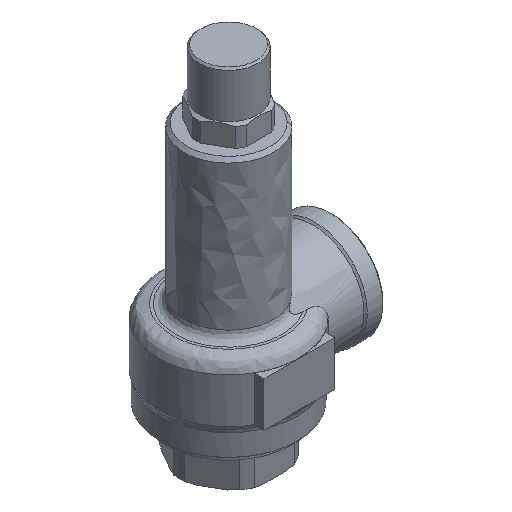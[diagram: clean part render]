
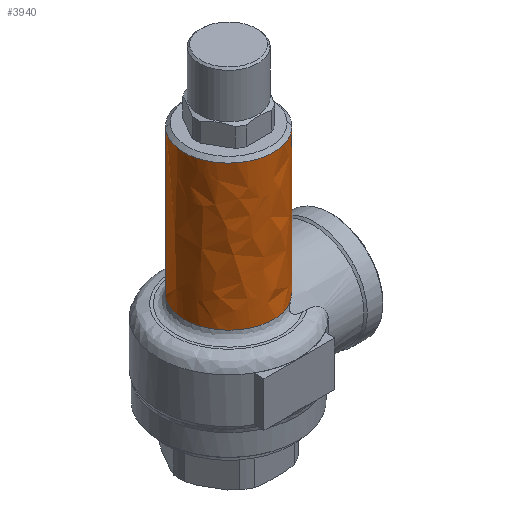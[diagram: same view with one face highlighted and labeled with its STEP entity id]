
A CAD part, isometric view. The second image highlights one B-rep face of the part: STEP entity #3940.
In plain terms, the highlighted free-form (B-spline) face has degree [2, 1] with [5, 2] control points.
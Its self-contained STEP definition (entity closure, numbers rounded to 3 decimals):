
#2227=CARTESIAN_POINT('',(18.973,-17.778,83.542));
#2228=VERTEX_POINT('',#2227);
#2282=CARTESIAN_POINT('',(13.638,-22.136,79.5));
#2283=VERTEX_POINT('',#2282);
#2284=CARTESIAN_POINT('',(18.973,-17.778,83.542));
#2285=CARTESIAN_POINT('',(18.808,-17.954,83.409));
#2286=CARTESIAN_POINT('',(18.641,-18.127,83.275));
#2287=CARTESIAN_POINT('',(17.737,-19.039,82.553));
#2288=CARTESIAN_POINT('',(16.968,-19.727,81.952));
#2289=CARTESIAN_POINT('',(15.761,-20.685,81.037));
#2290=CARTESIAN_POINT('',(15.349,-20.992,80.731));
#2291=CARTESIAN_POINT('',(14.508,-21.582,80.116));
#2292=CARTESIAN_POINT('',(14.078,-21.865,79.808));
#2293=CARTESIAN_POINT('',(13.638,-22.136,79.5));
#2294=B_SPLINE_CURVE_WITH_KNOTS('',3,(#2284,#2285,#2286,#2287,#2288,#2289,#2290,#2291,#2292,#2293),.UNSPECIFIED.,.F.,.U.,(4,2,2,2,4),(0.861,0.875,0.938,0.969,1.),.UNSPECIFIED.);
#2295=EDGE_CURVE('',#2228,#2283,#2294,.T.);
#3349=CARTESIAN_POINT('',(18.86,-17.897,163.5));
#3350=VERTEX_POINT('',#3349);
#3356=CARTESIAN_POINT('',(18.973,-17.778,163.5));
#3357=VERTEX_POINT('',#3356);
#3358=CARTESIAN_POINT('',(18.973,-17.778,163.5));
#3359=CARTESIAN_POINT('',(18.86,-17.897,163.5));
#3360=QUASI_UNIFORM_CURVE('',1,(#3358,#3359),.UNSPECIFIED.,.F.,.U.);
#3361=EDGE_CURVE('',#3357,#3350,#3360,.T.);
#3417=CARTESIAN_POINT('',(-18.973,17.778,163.5));
#3418=VERTEX_POINT('',#3417);
#3424=CARTESIAN_POINT('',(-26.,0.,163.5));
#3425=VERTEX_POINT('',#3424);
#3426=CARTESIAN_POINT('',(-26.,0.,163.5));
#3427=CARTESIAN_POINT('',(-26.001,2.09,163.5));
#3428=CARTESIAN_POINT('',(-25.617,5.25,163.5));
#3429=CARTESIAN_POINT('',(-24.337,9.345,163.5));
#3430=CARTESIAN_POINT('',(-22.487,13.386,163.5));
#3431=CARTESIAN_POINT('',(-20.507,16.141,163.5));
#3432=CARTESIAN_POINT('',(-18.973,17.778,163.5));
#3433=B_SPLINE_CURVE_WITH_KNOTS('',3,(#3426,#3427,#3428,#3429,#3430,#3431,#3432),.UNSPECIFIED.,.F.,.U.,(4,1,1,1,4),(0.,6.27,9.482,12.846,19.575),.UNSPECIFIED.);
#3434=EDGE_CURVE('',#3425,#3418,#3433,.T.);
#3436=CARTESIAN_POINT('',(0.,-26.,163.5));
#3437=VERTEX_POINT('',#3436);
#3438=CARTESIAN_POINT('',(0.,-26.,163.5));
#3439=CARTESIAN_POINT('',(-1.914,-26.,163.5));
#3440=CARTESIAN_POINT('',(-4.52,-25.711,163.5));
#3441=CARTESIAN_POINT('',(-8.222,-24.723,163.5));
#3442=CARTESIAN_POINT('',(-11.054,-23.621,163.5));
#3443=CARTESIAN_POINT('',(-14.456,-21.734,163.5));
#3444=CARTESIAN_POINT('',(-17.452,-19.412,163.5));
#3445=CARTESIAN_POINT('',(-20.382,-16.315,163.5));
#3446=CARTESIAN_POINT('',(-22.678,-12.968,163.5));
#3447=CARTESIAN_POINT('',(-24.377,-9.288,163.5));
#3448=CARTESIAN_POINT('',(-25.648,-5.052,163.5));
#3449=CARTESIAN_POINT('',(-26.,-1.968,163.5));
#3450=CARTESIAN_POINT('',(-26.,0.,163.5));
#3451=B_SPLINE_CURVE_WITH_KNOTS('',3,(#3438,#3439,#3440,#3441,#3442,#3443,#3444,#3445,#3446,#3447,#3448,#3449,#3450),.UNSPECIFIED.,.F.,.U.,(4,1,1,1,1,1,1,1,1,1,4),(0.,5.743,7.817,11.486,14.837,19.463,22.813,27.599,31.588,34.938,40.841),.UNSPECIFIED.);
#3452=EDGE_CURVE('',#3437,#3425,#3451,.T.);
#3454=CARTESIAN_POINT('',(18.86,-17.897,163.5));
#3455=CARTESIAN_POINT('',(17.725,-19.093,163.5));
#3456=CARTESIAN_POINT('',(15.81,-20.76,163.5));
#3457=CARTESIAN_POINT('',(12.661,-22.781,163.5));
#3458=CARTESIAN_POINT('',(9.239,-24.435,163.5));
#3459=CARTESIAN_POINT('',(4.891,-25.696,163.5));
#3460=CARTESIAN_POINT('',(1.594,-26.,163.5));
#3461=CARTESIAN_POINT('',(0.,-26.,163.5));
#3462=B_SPLINE_CURVE_WITH_KNOTS('',3,(#3454,#3455,#3456,#3457,#3458,#3459,#3460,#3461),.UNSPECIFIED.,.F.,.U.,(4,1,1,1,1,4),(0.,4.946,7.583,11.21,16.32,21.101),.UNSPECIFIED.);
#3463=EDGE_CURVE('',#3350,#3437,#3462,.T.);
#3866=CARTESIAN_POINT('',(18.973,-17.778,165.6));
#3867=CARTESIAN_POINT('',(1.195,-36.75,165.6));
#3868=CARTESIAN_POINT('',(-17.778,-18.973,165.6));
#3869=CARTESIAN_POINT('',(-36.75,-1.195,165.6));
#3870=CARTESIAN_POINT('',(-18.973,17.778,165.6));
#3871=CARTESIAN_POINT('',(18.973,-17.778,77.347));
#3872=CARTESIAN_POINT('',(1.195,-36.75,77.347));
#3873=CARTESIAN_POINT('',(-17.778,-18.973,77.347));
#3874=CARTESIAN_POINT('',(-36.75,-1.195,77.347));
#3875=CARTESIAN_POINT('',(-18.973,17.778,77.347));
#3883=(BOUNDED_SURFACE()B_SPLINE_SURFACE(2,1,((#3866,#3871),(#3867,#3872),(#3868,#3873),(#3869,#3874),(#3870,#3875)),.UNSPECIFIED.,.F.,.F.,.U.)B_SPLINE_SURFACE_WITH_KNOTS((3,2,3),(2,2),(0.,43.078,86.156),(0.,88.252),.UNSPECIFIED.)GEOMETRIC_REPRESENTATION_ITEM()RATIONAL_B_SPLINE_SURFACE(((1.,1.),(0.707,0.707),(1.,1.),(0.707,0.707),(1.,1.)))REPRESENTATION_ITEM('')SURFACE());
#3884=ORIENTED_EDGE('',*,*,#3361,.T.);
#3885=ORIENTED_EDGE('',*,*,#3463,.T.);
#3886=ORIENTED_EDGE('',*,*,#3452,.T.);
#3887=ORIENTED_EDGE('',*,*,#3434,.T.);
#3888=CARTESIAN_POINT('',(-18.973,17.778,79.5));
#3889=VERTEX_POINT('',#3888);
#3890=CARTESIAN_POINT('',(-18.973,17.778,163.5));
#3891=CARTESIAN_POINT('',(-18.973,17.778,79.5));
#3892=QUASI_UNIFORM_CURVE('',1,(#3890,#3891),.UNSPECIFIED.,.F.,.U.);
#3893=EDGE_CURVE('',#3418,#3889,#3892,.T.);
#3894=ORIENTED_EDGE('',*,*,#3893,.T.);
#3895=CARTESIAN_POINT('',(-26.,0.,79.5));
#3896=VERTEX_POINT('',#3895);
#3897=CARTESIAN_POINT('',(-26.,0.,79.5));
#3898=CARTESIAN_POINT('',(-26.,4.952,79.5));
#3899=CARTESIAN_POINT('',(-24.179,9.558,79.5));
#3900=CARTESIAN_POINT('',(-22.359,14.164,79.5));
#3901=CARTESIAN_POINT('',(-18.973,17.778,79.5));
#3909=(BOUNDED_CURVE()B_SPLINE_CURVE(2,(#3897,#3898,#3899,#3900,#3901),.UNSPECIFIED.,.F.,.U.)B_SPLINE_CURVE_WITH_KNOTS((3,2,3),(0.,0.5,1.),.UNSPECIFIED.)CURVE()GEOMETRIC_REPRESENTATION_ITEM()RATIONAL_B_SPLINE_CURVE((1.,0.982,1.,0.982,1.))REPRESENTATION_ITEM(''));
#3910=EDGE_CURVE('',#3896,#3889,#3909,.T.);
#3911=ORIENTED_EDGE('',*,*,#3910,.F.);
#3912=CARTESIAN_POINT('',(13.638,-22.136,79.5));
#3913=CARTESIAN_POINT('',(12.353,-22.928,79.5));
#3914=CARTESIAN_POINT('',(9.516,-24.351,79.5));
#3915=CARTESIAN_POINT('',(5.703,-25.459,79.5));
#3916=CARTESIAN_POINT('',(1.999,-25.987,79.5));
#3917=CARTESIAN_POINT('',(-1.604,-26.065,79.5));
#3918=CARTESIAN_POINT('',(-5.604,-25.5,79.5));
#3919=CARTESIAN_POINT('',(-8.979,-24.463,79.5));
#3920=CARTESIAN_POINT('',(-12.141,-23.075,79.5));
#3921=CARTESIAN_POINT('',(-15.168,-21.25,79.5));
#3922=CARTESIAN_POINT('',(-17.979,-18.882,79.5));
#3923=CARTESIAN_POINT('',(-20.606,-16.018,79.5));
#3924=CARTESIAN_POINT('',(-22.825,-12.725,79.5));
#3925=CARTESIAN_POINT('',(-24.613,-8.707,79.5));
#3926=CARTESIAN_POINT('',(-25.73,-4.528,79.5));
#3927=CARTESIAN_POINT('',(-26.,-1.581,79.5));
#3928=CARTESIAN_POINT('',(-26.,0.,79.5));
#3929=B_SPLINE_CURVE_WITH_KNOTS('',3,(#3912,#3913,#3914,#3915,#3916,#3917,#3918,#3919,#3920,#3921,#3922,#3923,#3924,#3925,#3926,#3927,#3928),.UNSPECIFIED.,.F.,.U.,(4,1,1,1,1,1,1,1,1,1,1,1,1,1,4),(0.,4.528,9.487,11.859,15.74,20.268,23.933,26.305,30.617,34.498,37.301,42.261,46.357,50.454,55.198),.UNSPECIFIED.);
#3930=EDGE_CURVE('',#2283,#3896,#3929,.T.);
#3931=ORIENTED_EDGE('',*,*,#3930,.F.);
#3932=ORIENTED_EDGE('',*,*,#2295,.F.);
#3933=CARTESIAN_POINT('',(18.973,-17.778,163.5));
#3934=CARTESIAN_POINT('',(18.973,-17.778,83.542));
#3935=QUASI_UNIFORM_CURVE('',1,(#3933,#3934),.UNSPECIFIED.,.F.,.U.);
#3936=EDGE_CURVE('',#3357,#2228,#3935,.T.);
#3937=ORIENTED_EDGE('',*,*,#3936,.F.);
#3938=EDGE_LOOP('',(#3884,#3885,#3886,#3887,#3894,#3911,#3931,#3932,#3937));
#3939=FACE_OUTER_BOUND('',#3938,.T.);
#3940=ADVANCED_FACE('',(#3939),#3883,.T.);
